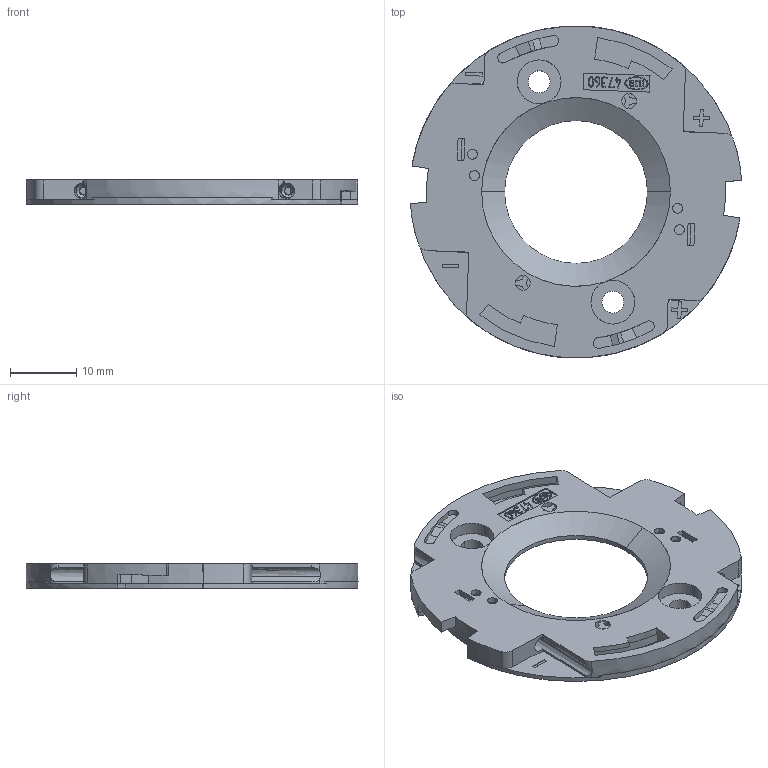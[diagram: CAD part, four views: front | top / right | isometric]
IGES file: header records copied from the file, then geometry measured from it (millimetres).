
Global section: file name: C:\CoreTechnologie\3D-in\01ZYR0KY04.igs; native system: CT CoreTechnologie 3D Evolution; preprocessor: 2006; date: 1171021.091955; units: millimetre
Bounding box: 49.88 x 50 x 3.65 mm (x, y, z)
Volume: 3414.6 mm3; surface area: 7629.3 mm2
Topology: 4 solids, 4 shells, 771 faces, 2162 edges, 1448 vertices
Faces by surface type: plane 491, revolution 246, bspline 34
